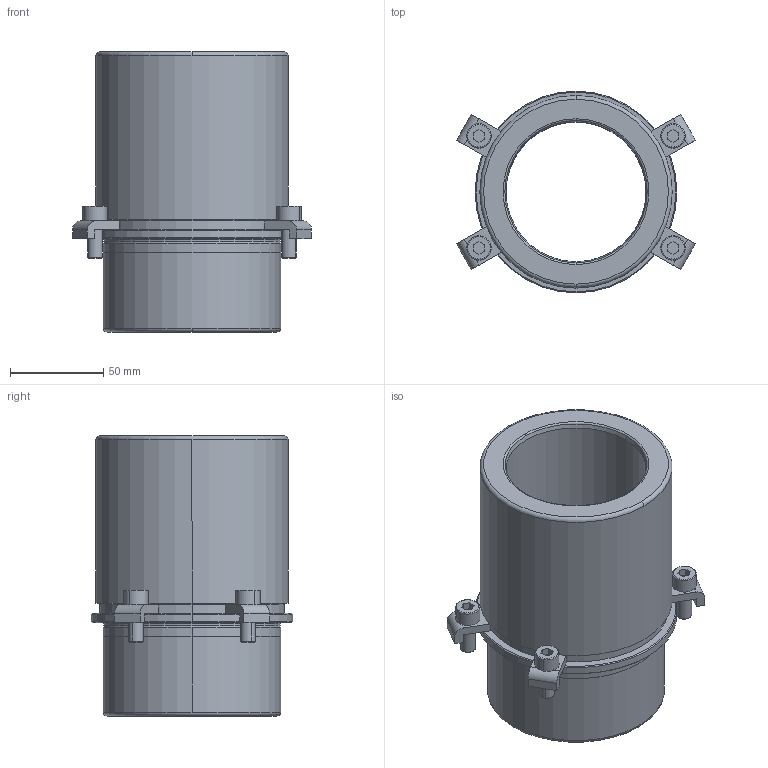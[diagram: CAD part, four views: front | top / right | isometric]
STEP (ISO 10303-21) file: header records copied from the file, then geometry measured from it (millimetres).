
FILE_DESCRIPTION((''),'2;1');
FILE_NAME('B40_063_100.stp','2009-01-05T16:43:39',(''),(''),'Mechanical Desktop 2009','Mechanical Desktop 2009',', , ');
FILE_SCHEMA(('CONFIG_CONTROL_DESIGN'));
Length unit declared in the file: millimetre
Products named in the file (2): Product; blmdl1
Assembly tree (1 placements, depth 2):
  Product
    blmdl1
Bounding box: 127.98 x 108 x 150 mm (x, y, z)
Volume: 538054.5 mm3; surface area: 101123 mm2
Topology: 9 solids, 9 shells, 181 faces, 446 edges, 294 vertices
Faces by surface type: plane 81, cylinder 50, cone 22, torus 16, bspline 12
Entity records: 6031 total; most frequent: CARTESIAN_POINT 1451, DIRECTION 1006, ORIENTED_EDGE 892, EDGE_CURVE 446, AXIS2_PLACEMENT_3D 389, VERTEX_POINT 294, VECTOR 228, LINE 228
